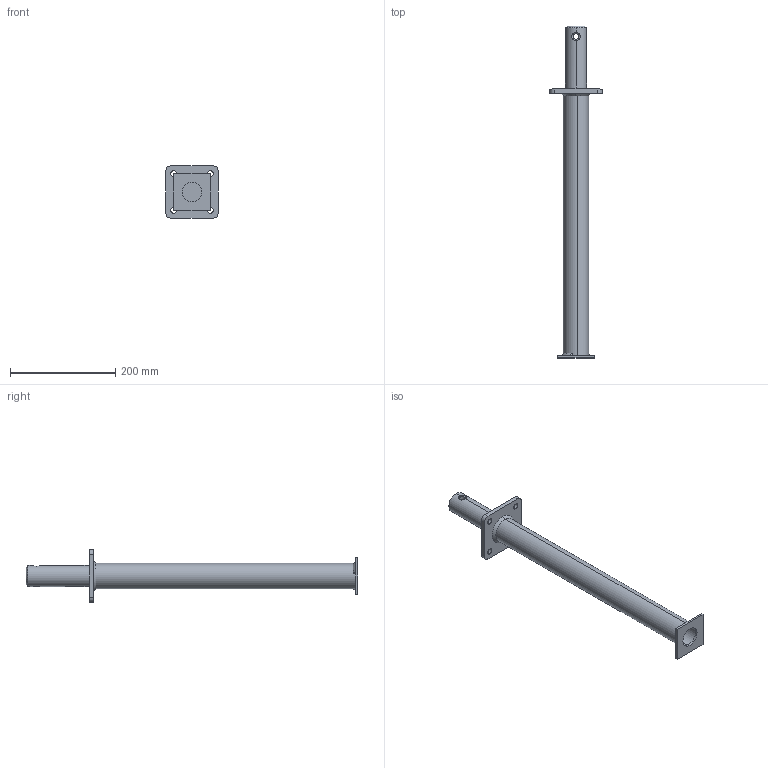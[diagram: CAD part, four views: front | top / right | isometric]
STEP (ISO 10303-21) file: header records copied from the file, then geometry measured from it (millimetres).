
FILE_DESCRIPTION (( 'STEP AP203' ), '1' );
FILE_NAME ('19820420.STEP', '2021-04-20T09:40:44', ( '' ), ( '' ), 'SwSTEP 2.0', 'SolidWorks 2013', '' );
FILE_SCHEMA (( 'CONFIG_CONTROL_DESIGN' ));
Length unit declared in the file: millimetre
Products named in the file (7): 100x100x8-4xd11-abgerundet; Schweissnaht-d48mm-O; Schweissnaht-d48mm-25mm; 70x70x4; Standrohr-48,3x500x3,25; 19820420; 40x120
Assembly tree (7 placements, depth 2):
  19820420
    70x70x4
    100x100x8-4xd11-abgerundet
    40x120
    Schweissnaht-d48mm-25mm  x2
    Schweissnaht-d48mm-O
    Standrohr-48,3x500x3,25
Bounding box: 100 x 632 x 100 mm (x, y, z)
Volume: 470670.3 mm3; surface area: 197034.6 mm2
Topology: 7 solids, 7 shells, 61 faces, 144 edges, 94 vertices
Faces by surface type: cylinder 26, plane 23, bspline 10, cone 2
Entity records: 4744 total; most frequent: CARTESIAN_POINT 2730, DIRECTION 260, ORIENTED_EDGE 258, EDGE_CURVE 129, AXIS2_PLACEMENT_3D 102, VERTEX_POINT 84, EDGE_LOOP 67, PERSON_AND_ORGANIZATION 63
